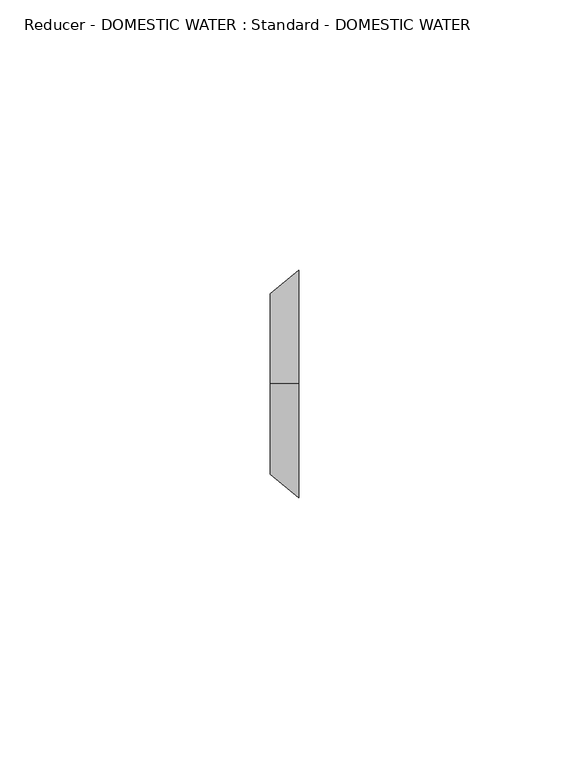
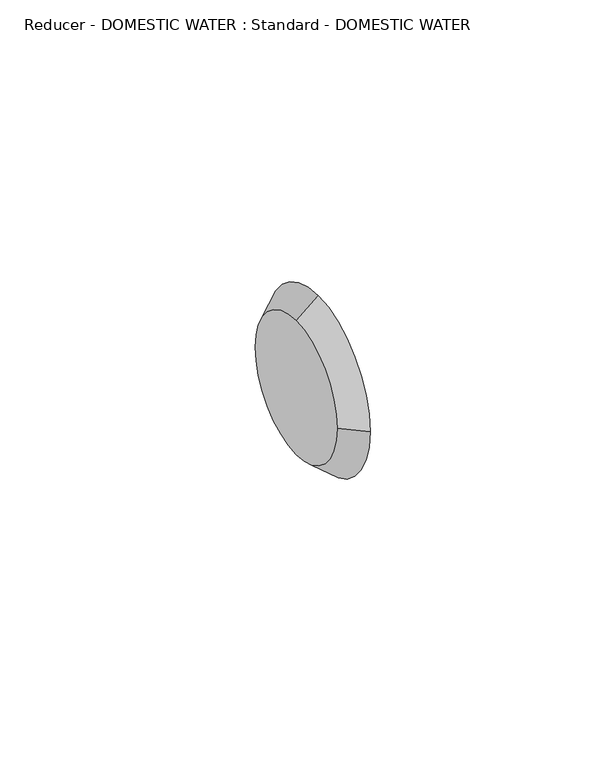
"""IFC4 building model written with IfcOpenShell, lengths in millimetres: pipe fitting geometry, Reducer - DOMESTIC WATER : Standard - DOMESTIC WATER."""

from ifc_helpers import new_model, si_unit, frame, origin, place, context, project, spatial, polyline, circle_curve, source, transform, mapped, element, save
from ifc_brep_helpers import plane_surface, revolved_surface, advanced_brep


def reducer_domestic_water_standard_domestic_water_beaa3ff3(model_context):
    return source(origin(), model_context, "Body", "AdvancedBrep", [
        advanced_brep(
        [(5.2705, 0.0, 21.082), (5.2705, -21.082, 0.0), (5.2705, 0.0, -21.082), (5.2705, 21.082, 0.0), (0.0, 0.0, 16.7005), (0.0, 16.7005, 0.0), (0.0, 0.0, -16.7005), (0.0, -16.7005, 0.0)],
        [
            (0, 1, circle_curve(frame((5.2705, 0.0, 0.0), z_axis=(1.0, 0.0, 0.0), x_axis=(0.0, 0.0, 1.0)), 21.082)),
            (1, 2, circle_curve(frame((5.2705, 0.0, 0.0), z_axis=(1.0, 0.0, 0.0), x_axis=(0.0, -1.0, 0.0)), 21.082)),
            (2, 3, circle_curve(frame((5.2705, 0.0, 0.0), z_axis=(1.0, 0.0, 0.0), x_axis=(0.0, 0.0, -1.0)), 21.082)),
            (3, 0, circle_curve(frame((5.2705, 0.0, 0.0), z_axis=(1.0, 0.0, 0.0), x_axis=(0.0, 1.0, 0.0)), 21.082)),
            (4, 5, circle_curve(frame((0.0, 0.0, 0.0), z_axis=(-1.0, 0.0, 0.0), x_axis=(0.0, 1.0, 0.0)), 16.7005)),
            (5, 6, circle_curve(frame((0.0, 0.0, 0.0), z_axis=(-1.0, 0.0, 0.0), x_axis=(0.0, 0.0, -1.0)), 16.7005)),
            (6, 7, circle_curve(frame((0.0, 0.0, 0.0), z_axis=(-1.0, 0.0, 0.0), x_axis=(0.0, -1.0, 0.0)), 16.7005)),
            (7, 4, circle_curve(frame((0.0, 0.0, 0.0), z_axis=(-1.0, 0.0, 0.0), x_axis=(0.0, 0.0, 1.0)), 16.7005)),
            (7, 1),
            (0, 4),
            (6, 2),
            (5, 3),
        ],
        [
            plane_surface(frame((5.2705, 0.0, 0.0), z_axis=(1.0, 0.0, 0.0), x_axis=(0.0, -1.0, 0.0))),
            plane_surface(frame((0.0, 0.0, 0.0), z_axis=(-1.0, 0.0, 0.0), x_axis=(0.0, -1.0, 0.0))),
            revolved_surface(polyline([(0.0, -16.700499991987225, 0.0), (5.270500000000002, -21.082, 0.0)]), (-20.0890072, 0.0, 0.0), (1.0, 0.0, 0.0)),
            revolved_surface(polyline([(0.0, 0.0, -16.700499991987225), (5.270500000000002, 0.0, -21.082)]), (-20.0890072, 0.0, 0.0), (1.0, 0.0, 0.0)),
            revolved_surface(polyline([(0.0, 16.700499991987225, 0.0), (5.270500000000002, 21.082, 0.0)]), (-20.0890072, 0.0, 0.0), (1.0, 0.0, 0.0)),
            revolved_surface(polyline([(0.0, 0.0, 16.700499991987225), (5.270500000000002, 0.0, 21.082)]), (-20.0890072, 0.0, 0.0), (1.0, 0.0, 0.0)),
        ],
        [
            (0, [[1, 2, 3, 4]]),
            (1, [[5, 6, 7, 8]]),
            (2, [[-8, 9, -1, 10]]),
            (3, [[-7, 11, -2, -9]]),
            (4, [[-6, 12, -3, -11]]),
            (5, [[-5, -10, -4, -12]]),
        ],
    ),
        advanced_brep(
        [(5.2705, 0.0, 21.082), (5.2705, -21.082, 0.0), (5.2705, 0.0, -21.082), (5.2705, 21.082, 0.0), (0.0, 0.0, 16.7005), (0.0, 16.7005, 0.0), (0.0, 0.0, -16.7005), (0.0, -16.7005, 0.0)],
        [
            (0, 1, circle_curve(frame((5.2705, 0.0, 0.0), z_axis=(1.0, 0.0, -1.5064449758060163e-12), x_axis=(1.5064111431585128e-12, 0.0, 1.0)), 21.082)),
            (1, 2, circle_curve(frame((5.2705, 0.0, 0.0), z_axis=(1.0, 0.0, -1.4422393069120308e-12), x_axis=(0.0, -1.0, 0.0)), 21.082)),
            (2, 3, circle_curve(frame((5.2705, 0.0, 0.0), z_axis=(1.0, 0.0, -2.3653624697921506e-12), x_axis=(-2.3653815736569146e-12, 0.0, -1.0)), 21.082)),
            (3, 0, circle_curve(frame((5.2705, 0.0, 0.0), z_axis=(1.0, 0.0, 0.0), x_axis=(0.0, 1.0, 0.0)), 21.082)),
            (4, 5, circle_curve(frame((0.0, 0.0, 0.0), z_axis=(-1.0, 0.0, 0.0), x_axis=(0.0, 1.0, 0.0)), 16.7005)),
            (5, 6, circle_curve(frame((0.0, 0.0, 0.0), z_axis=(-1.0, 0.0, 2.3653624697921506e-12), x_axis=(-2.3653815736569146e-12, 0.0, -1.0)), 16.7005)),
            (6, 7, circle_curve(frame((0.0, 0.0, 0.0), z_axis=(-1.0, 0.0, 1.4422393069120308e-12), x_axis=(0.0, -1.0, 0.0)), 16.7005)),
            (7, 4, circle_curve(frame((0.0, 0.0, 0.0), z_axis=(-1.0, 0.0, 1.5064449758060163e-12), x_axis=(1.5064111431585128e-12, 0.0, 1.0)), 16.7005)),
            (7, 1),
            (0, 4),
            (6, 2),
            (5, 3),
        ],
        [
            plane_surface(frame((5.2705, 0.0, 0.0), z_axis=(1.0, 0.0, 0.0), x_axis=(0.0, -1.0, 0.0))),
            plane_surface(frame((0.0, 0.0, 0.0), z_axis=(-1.0, 0.0, 0.0), x_axis=(0.0, -1.0, 0.0))),
            revolved_surface(polyline([(-2.5156765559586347e-11, -16.70049999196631, 0.0), (5.270500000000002, -21.082, 0.0)]), (-20.0890072, 0.0, 0.0), (1.0, 0.0, -1.5064449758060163e-12)),
            revolved_surface(polyline([(-2.4083846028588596e-11, 0.0, -16.700499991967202), (5.270500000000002, 0.0, -21.082)]), (-20.0890072, 0.0, 0.0), (1.0, 0.0, -1.4422393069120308e-12)),
            revolved_surface(polyline([(0.0, 16.700499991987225, 0.0), (5.270500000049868, 21.082000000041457, 0.0)]), (-20.0890072, 0.0, 0.0), (1.0, 0.0, -2.3653624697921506e-12)),
            revolved_surface(polyline([(0.0, 0.0, 16.700499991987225), (5.270500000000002, 0.0, 21.082)]), (-20.0890072, 0.0, 0.0), (1.0, 0.0, 0.0)),
        ],
        [
            (0, [[1, 2, 3, 4]]),
            (1, [[5, 6, 7, 8]]),
            (2, [[-8, 9, -1, 10]]),
            (3, [[-7, 11, -2, -9]]),
            (4, [[-6, 12, -3, -11]]),
            (5, [[-5, -10, -4, -12]]),
        ],
    ),
    ])


if __name__ == "__main__":
    model = new_model("IFC4")
    model_context = context("Model", 3, world=origin())
    ifc_project = project(units=[si_unit("LENGTHUNIT", "METRE", prefix="MILLI")], contexts=[model_context])
    site = spatial("IfcSite", under=ifc_project)
    building = spatial("IfcBuilding", under=site)
    placement = place(None, origin())
    reducer_domestic_water_standard_domestic_water_shape = reducer_domestic_water_standard_domestic_water_beaa3ff3(model_context)
    element("IfcPipeFitting", 1, ObjectType="Reducer - DOMESTIC WATER : Standard - DOMESTIC WATER", at=placement, inside=building, context=model_context, shape_type="MappedRepresentation", body=[
        mapped(reducer_domestic_water_standard_domestic_water_shape, transform((0.0, 0.0, 0.0), x_axis=(1.0, 0.0, 0.0), y_axis=(0.0, 1.0, 0.0), z_axis=(0.0, 0.0, 1.0))),
    ])
    save(model, "model.ifc")
